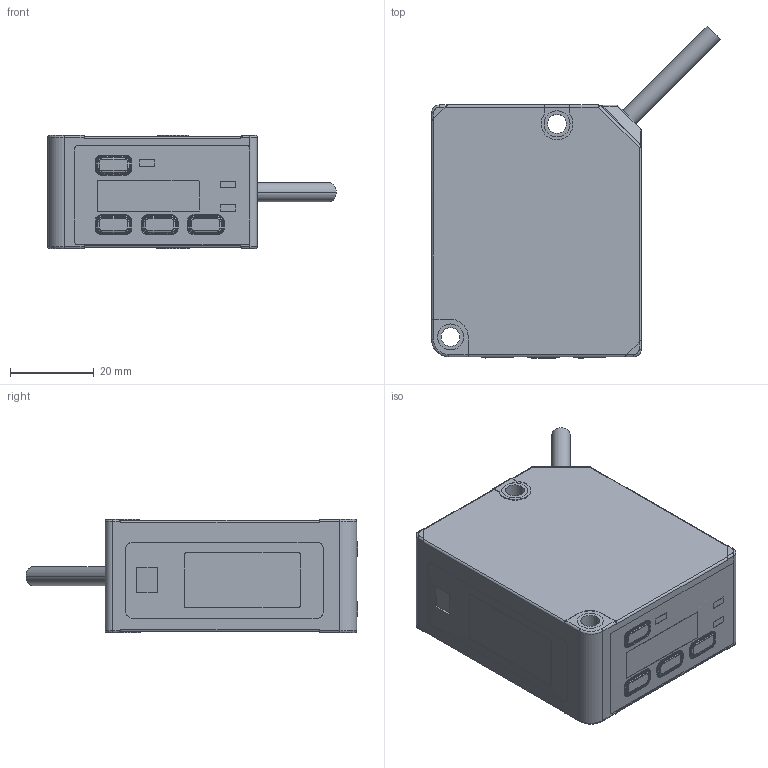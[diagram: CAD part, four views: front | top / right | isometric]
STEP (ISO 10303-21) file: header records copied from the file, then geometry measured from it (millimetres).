
FILE_DESCRIPTION (( 'STEP AP203' ), '1' );
FILE_NAME ('220214130.STEP', '2022-02-14T06:48:07', ( '' ), ( '' ), 'SwSTEP 2.0', 'SolidWorks 2021', '' );
FILE_SCHEMA (( 'CONFIG_CONTROL_DESIGN' ));
Length unit declared in the file: millimetre
Products named in the file (3): Assembly-1; 220214130; CD2H
Assembly tree (2 placements, depth 3):
  220214130
    Assembly-1
      CD2H
Bounding box: 68.84 x 79.14 x 27 mm (x, y, z)
Volume: 78699.8 mm3; surface area: 13204.5 mm2
Topology: 1 solids, 6 shells, 427 faces, 911 edges, 514 vertices
Faces by surface type: cylinder 167, plane 166, torus 54, cone 32, sphere 8
Entity records: 11628 total; most frequent: DIRECTION 2153, CARTESIAN_POINT 1982, ORIENTED_EDGE 1818, EDGE_CURVE 909, AXIS2_PLACEMENT_3D 845, VERTEX_POINT 514, VECTOR 463, LINE 463
